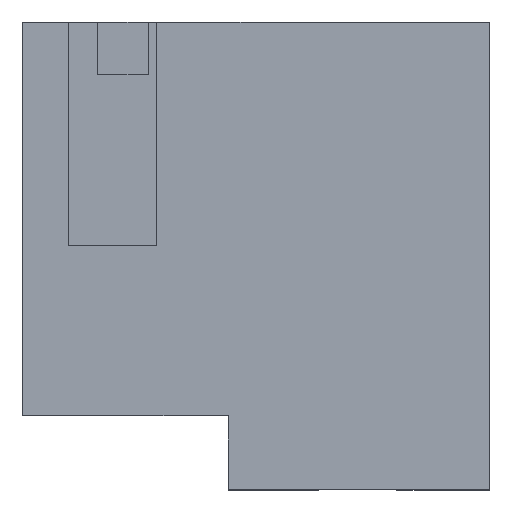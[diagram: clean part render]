
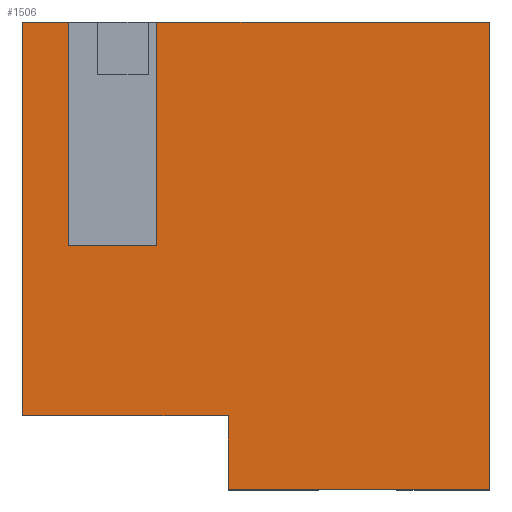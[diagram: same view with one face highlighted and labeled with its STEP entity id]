
A CAD part, top view. The second image highlights one B-rep face of the part: STEP entity #1506.
In plain terms, the highlighted planar face has unit normal (0, 0, 1).
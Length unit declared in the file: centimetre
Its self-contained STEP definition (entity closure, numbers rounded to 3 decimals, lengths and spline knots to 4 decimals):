
#15 = ORIENTED_EDGE ( 'NONE', *, *, #596, .T. ) ;
#17 = LINE ( 'NONE', #1182, #592 ) ;
#24 = ORIENTED_EDGE ( 'NONE', *, *, #882, .T. ) ;
#67 = ORIENTED_EDGE ( 'NONE', *, *, #259, .T. ) ;
#103 = VECTOR ( 'NONE', #498, 100. ) ;
#110 = CARTESIAN_POINT ( 'NONE',  ( 440.7643, 157.3258, 1000. ) ) ;
#128 = VECTOR ( 'NONE', #612, 100. ) ;
#151 = ORIENTED_EDGE ( 'NONE', *, *, #271, .F. ) ;
#160 = EDGE_CURVE ( 'NONE', #1376, #562, #441, .T. ) ;
#161 = VECTOR ( 'NONE', #506, 100. ) ;
#162 = VERTEX_POINT ( 'NONE', #1384 ) ;
#194 = DIRECTION ( 'NONE',  ( 0., 1., 0. ) ) ;
#218 = CARTESIAN_POINT ( 'NONE',  ( 98.7449, 521.6668, 1000. ) ) ;
#224 = VERTEX_POINT ( 'NONE', #853 ) ;
#236 = CARTESIAN_POINT ( 'NONE',  ( 287.6799, 521.6668, 1000. ) ) ;
#238 = CARTESIAN_POINT ( 'NONE',  ( 0., 1000., 1000. ) ) ;
#249 = CARTESIAN_POINT ( 'NONE',  ( 1000., 0., 1000. ) ) ;
#259 = EDGE_CURVE ( 'NONE', #162, #556, #997, .T. ) ;
#271 = EDGE_CURVE ( 'NONE', #1465, #1435, #745, .T. ) ;
#280 = EDGE_CURVE ( 'NONE', #1376, #943, #1649, .T. ) ;
#359 = ORIENTED_EDGE ( 'NONE', *, *, #160, .F. ) ;
#397 = VECTOR ( 'NONE', #411, 100. ) ;
#411 = DIRECTION ( 'NONE',  ( -1., 0., 0. ) ) ;
#427 = VECTOR ( 'NONE', #194, 100. ) ;
#441 = LINE ( 'NONE', #1120, #616 ) ;
#498 = DIRECTION ( 'NONE',  ( -1., 0., 0. ) ) ;
#506 = DIRECTION ( 'NONE',  ( 0., -1., 0. ) ) ;
#542 = CARTESIAN_POINT ( 'NONE',  ( 1000., 1000., 1000. ) ) ;
#556 = VERTEX_POINT ( 'NONE', #610 ) ;
#562 = VERTEX_POINT ( 'NONE', #236 ) ;
#584 = EDGE_CURVE ( 'NONE', #943, #1289, #1324, .T. ) ;
#592 = VECTOR ( 'NONE', #1578, 100. ) ;
#596 = EDGE_CURVE ( 'NONE', #224, #1044, #17, .T. ) ;
#607 = DIRECTION ( 'NONE',  ( 0., 0., 1. ) ) ;
#609 = ORIENTED_EDGE ( 'NONE', *, *, #1032, .F. ) ;
#610 = CARTESIAN_POINT ( 'NONE',  ( 287.6799, 1000., 1000. ) ) ;
#612 = DIRECTION ( 'NONE',  ( 0., 1., 0. ) ) ;
#616 = VECTOR ( 'NONE', #716, 100. ) ;
#624 = DIRECTION ( 'NONE',  ( -1., 0., 0. ) ) ;
#627 = EDGE_CURVE ( 'NONE', #1044, #162, #794, .T. ) ;
#639 = CARTESIAN_POINT ( 'NONE',  ( 0., 157.3258, 1000. ) ) ;
#662 = CARTESIAN_POINT ( 'NONE',  ( 0., 1000., 1000. ) ) ;
#716 = DIRECTION ( 'NONE',  ( 1., 0., 0. ) ) ;
#745 = LINE ( 'NONE', #1543, #103 ) ;
#756 = CARTESIAN_POINT ( 'NONE',  ( 0., 0., 1000. ) ) ;
#792 = ORIENTED_EDGE ( 'NONE', *, *, #627, .T. ) ;
#794 = LINE ( 'NONE', #542, #1456 ) ;
#853 = CARTESIAN_POINT ( 'NONE',  ( 440.7643, 0., 1000. ) ) ;
#862 = VECTOR ( 'NONE', #624, 100. ) ;
#878 = PLANE ( 'NONE',  #1236 ) ;
#882 = EDGE_CURVE ( 'NONE', #1289, #1435, #1327, .T. ) ;
#895 = ORIENTED_EDGE ( 'NONE', *, *, #584, .T. ) ;
#943 = VERTEX_POINT ( 'NONE', #1262 ) ;
#993 = LINE ( 'NONE', #1348, #427 ) ;
#997 = LINE ( 'NONE', #238, #862 ) ;
#1032 = EDGE_CURVE ( 'NONE', #224, #1465, #1422, .T. ) ;
#1044 = VERTEX_POINT ( 'NONE', #249 ) ;
#1065 = DIRECTION ( 'NONE',  ( 0., 1., 0. ) ) ;
#1096 = ORIENTED_EDGE ( 'NONE', *, *, #1283, .F. ) ;
#1120 = CARTESIAN_POINT ( 'NONE',  ( 98.7449, 521.6668, 1000. ) ) ;
#1163 = DIRECTION ( 'NONE',  ( 0., 1., 0. ) ) ;
#1182 = CARTESIAN_POINT ( 'NONE',  ( 0., 0., 1000. ) ) ;
#1193 = VECTOR ( 'NONE', #1163, 100. ) ;
#1225 = CARTESIAN_POINT ( 'NONE',  ( 0., 1000., 1000. ) ) ;
#1236 = AXIS2_PLACEMENT_3D ( 'NONE', #756, #607, #1399 ) ;
#1259 = CARTESIAN_POINT ( 'NONE',  ( 98.7449, 521.6668, 1000. ) ) ;
#1262 = CARTESIAN_POINT ( 'NONE',  ( 98.7449, 1000., 1000. ) ) ;
#1280 = FACE_OUTER_BOUND ( 'NONE', #1666, .T. ) ;
#1283 = EDGE_CURVE ( 'NONE', #562, #556, #993, .T. ) ;
#1289 = VERTEX_POINT ( 'NONE', #1225 ) ;
#1324 = LINE ( 'NONE', #662, #397 ) ;
#1327 = LINE ( 'NONE', #1671, #161 ) ;
#1348 = CARTESIAN_POINT ( 'NONE',  ( 287.6799, 521.6668, 1000. ) ) ;
#1354 = ORIENTED_EDGE ( 'NONE', *, *, #280, .T. ) ;
#1376 = VERTEX_POINT ( 'NONE', #218 ) ;
#1384 = CARTESIAN_POINT ( 'NONE',  ( 1000., 1000., 1000. ) ) ;
#1399 = DIRECTION ( 'NONE',  ( 1., 0., 0. ) ) ;
#1422 = LINE ( 'NONE', #1524, #1193 ) ;
#1435 = VERTEX_POINT ( 'NONE', #639 ) ;
#1456 = VECTOR ( 'NONE', #1065, 100. ) ;
#1465 = VERTEX_POINT ( 'NONE', #110 ) ;
#1506 = ADVANCED_FACE ( 'NONE', ( #1280 ), #878, .T. ) ;
#1524 = CARTESIAN_POINT ( 'NONE',  ( 440.7643, 0., 1000. ) ) ;
#1543 = CARTESIAN_POINT ( 'NONE',  ( 440.7643, 157.3258, 1000. ) ) ;
#1578 = DIRECTION ( 'NONE',  ( 1., 0., 0. ) ) ;
#1649 = LINE ( 'NONE', #1259, #128 ) ;
#1666 = EDGE_LOOP ( 'NONE', ( #151, #609, #15, #792, #67, #1096, #359, #1354, #895, #24 ) ) ;
#1671 = CARTESIAN_POINT ( 'NONE',  ( 0., 1000., 1000. ) ) ;
